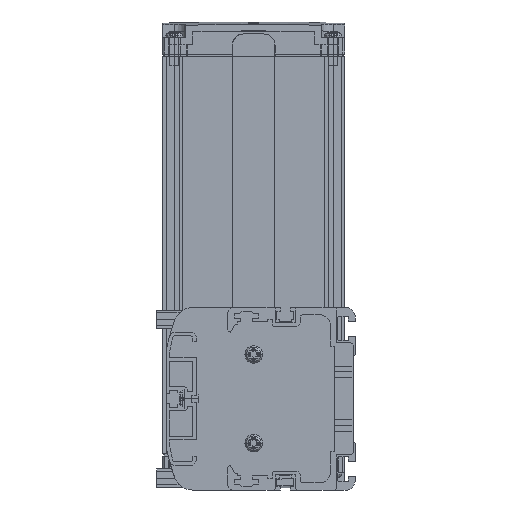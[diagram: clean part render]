
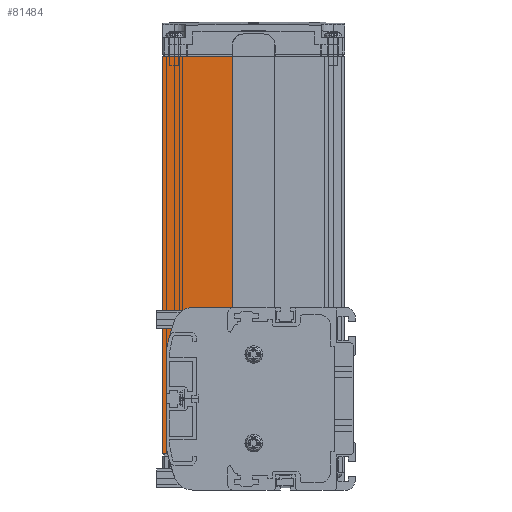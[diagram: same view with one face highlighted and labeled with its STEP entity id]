
A CAD part, left-side view. The second image highlights one B-rep face of the part: STEP entity #81484.
In plain terms, the highlighted planar face has unit normal (-1, 0, 0).
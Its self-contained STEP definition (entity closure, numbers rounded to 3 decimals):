
#80066=DIRECTION('',(0.,-1.,0.));
#80067=VECTOR('',#80066,17.9);
#80068=CARTESIAN_POINT('',(3.,70.5,27.5));
#80069=LINE('',#80068,#80067);
#80074=DIRECTION('',(0.,0.,1.));
#80075=VECTOR('',#80074,51.);
#80076=CARTESIAN_POINT('',(3.,70.5,-23.5));
#80077=LINE('',#80076,#80075);
#80082=DIRECTION('',(0.,-1.,0.));
#80083=VECTOR('',#80082,12.);
#80084=CARTESIAN_POINT('',(3.,82.5,-23.5));
#80085=LINE('',#80084,#80083);
#80086=DIRECTION('',(0.,0.,-1.));
#80087=VECTOR('',#80086,170.);
#80088=CARTESIAN_POINT('',(3.,82.5,146.5));
#80089=LINE('',#80088,#80087);
#80090=DIRECTION('',(0.,1.,0.));
#80091=VECTOR('',#80090,29.9);
#80092=CARTESIAN_POINT('',(3.,52.6,146.5));
#80093=LINE('',#80092,#80091);
#80128=DIRECTION('',(0.,0.,1.));
#80129=VECTOR('',#80128,119.);
#80130=CARTESIAN_POINT('',(3.,52.6,27.5));
#80131=LINE('',#80130,#80129);
#80285=CARTESIAN_POINT('',(3.,70.5,-23.5));
#80286=VERTEX_POINT('',#80285);
#80287=CARTESIAN_POINT('',(3.,82.5,-23.5));
#80288=VERTEX_POINT('',#80287);
#80423=CARTESIAN_POINT('',(3.,52.6,146.5));
#80424=VERTEX_POINT('',#80423);
#80425=CARTESIAN_POINT('',(3.,82.5,146.5));
#80426=VERTEX_POINT('',#80425);
#80483=CARTESIAN_POINT('',(3.,70.5,27.5));
#80484=CARTESIAN_POINT('',(3.,52.6,27.5));
#80485=VERTEX_POINT('',#80483);
#80486=VERTEX_POINT('',#80484);
#81469=CARTESIAN_POINT('',(3.,67.55,61.5));
#81470=DIRECTION('',(1.,0.,0.));
#81471=DIRECTION('',(0.,-1.,0.));
#81472=AXIS2_PLACEMENT_3D('',#81469,#81470,#81471);
#81473=PLANE('',#81472);
#81474=ORIENTED_EDGE('',*,*,#81445,.F.);
#81475=ORIENTED_EDGE('',*,*,#81462,.F.);
#81476=ORIENTED_EDGE('',*,*,#80590,.F.);
#81478=ORIENTED_EDGE('',*,*,#81477,.F.);
#81479=ORIENTED_EDGE('',*,*,#81001,.F.);
#81481=ORIENTED_EDGE('',*,*,#81480,.F.);
#81482=EDGE_LOOP('',(#81474,#81475,#81476,#81478,#81479,#81481));
#81483=FACE_OUTER_BOUND('',#81482,.F.);
#81484=ADVANCED_FACE('',(#81483),#81473,.F.);
#80590=EDGE_CURVE('',#80288,#80286,#80085,.T.);
#81001=EDGE_CURVE('',#80424,#80426,#80093,.T.);
#81445=EDGE_CURVE('',#80485,#80486,#80069,.T.);
#81462=EDGE_CURVE('',#80286,#80485,#80077,.T.);
#81477=EDGE_CURVE('',#80426,#80288,#80089,.T.);
#81480=EDGE_CURVE('',#80486,#80424,#80131,.T.);
